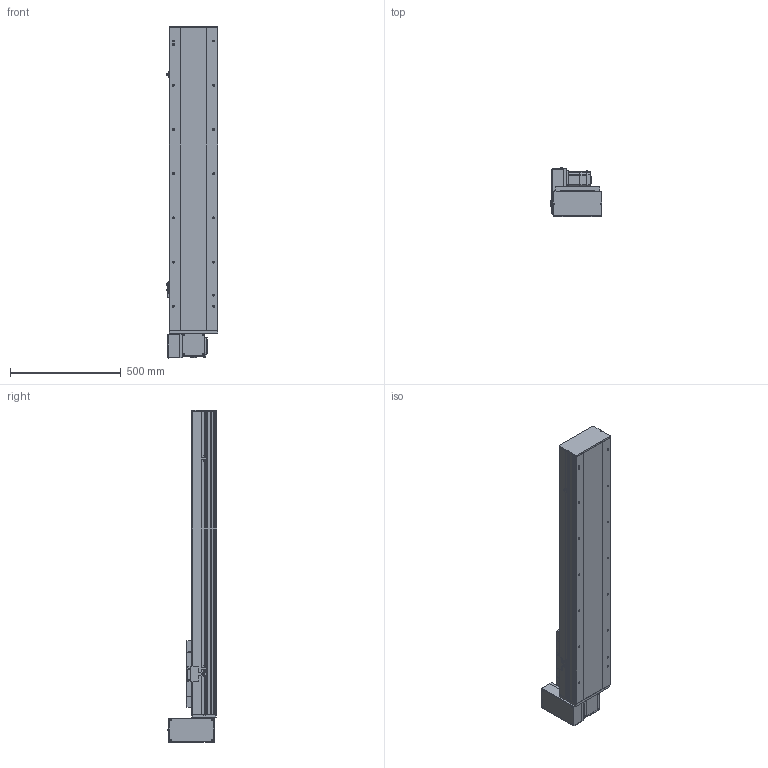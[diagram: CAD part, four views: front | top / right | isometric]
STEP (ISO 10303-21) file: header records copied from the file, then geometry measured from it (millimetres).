
FILE_DESCRIPTION (( 'STEP AP214' ), '1' );
FILE_NAME ('TPE22-L40-950-RU-T75-C4.STEP', '2023-04-13T01:26:21', ( '' ), ( '' ), 'SwSTEP 2.0', 'SolidWorks 2020', '' );
FILE_SCHEMA (( 'AUTOMOTIVE_DESIGN' ));
Length unit declared in the file: millimetre
Products named in the file (10): 葩璃 pm-t65-672^TPE22-L40-RU-T75-C4; 葩璃 TPT22-L-009 萇儂啣^TPE22-L40-RU-T75-C4; 葩璃 TPE22-L-001 菁釱MZ-220-01^TPE22-L40-RU-T75-C4; hexagon head bolts-full thread gb_GB_FASTENER_BOLT_STBAB A M5X16-N; 葩璃 TPE22 賑雄殤^TPE22-L40-RU-T75-C4; TPE22-L40-950-RU-T75-C4; 葩璃 MSMD08PC_P75^TPE22-L40-RU-T75-C4; 葩璃 TPE22-L-007 々湍釱^TPE22-L40-RU-T75-C4; 葩璃 TPE22-L-002 耜裔ZTMZ-220-04^TPE22-L40-RU-T75-C4; 葩璃 詩湍150^TPE22-L40-RU-T75-C4
Assembly tree (12 placements, depth 2):
  TPE22-L40-950-RU-T75-C4
    葩璃 TPE22-L-001 菁釱MZ-220-01^TPE22-L40-RU-T75-C4
    葩璃 TPE22-L-002 耜裔ZTMZ-220-04^TPE22-L40-RU-T75-C4  x2
    葩璃 詩湍150^TPE22-L40-RU-T75-C4
    葩璃 TPE22-L-007 々湍釱^TPE22-L40-RU-T75-C4
    葩璃 TPT22-L-009 萇儂啣^TPE22-L40-RU-T75-C4
    葩璃 TPE22 賑雄殤^TPE22-L40-RU-T75-C4
    葩璃 pm-t65-672^TPE22-L40-RU-T75-C4  x3
    葩璃 MSMD08PC_P75^TPE22-L40-RU-T75-C4
    hexagon head bolts-full thread gb_GB_FASTENER_BOLT_STBAB A M5X16-N
Bounding box: 233.7 x 223.65 x 1502 mm (x, y, z)
Volume: 17115262 mm3; surface area: 2614330.2 mm2
Topology: 22 solids, 22 shells, 1741 faces, 4579 edges, 2925 vertices
Faces by surface type: plane 1039, cylinder 568, cone 104, bspline 30
Entity records: 49154 total; most frequent: CARTESIAN_POINT 10203, DIRECTION 7730, ORIENTED_EDGE 7654, EDGE_CURVE 3827, LINE 2616, VECTOR 2616, AXIS2_PLACEMENT_3D 2557, VERTEX_POINT 2469
